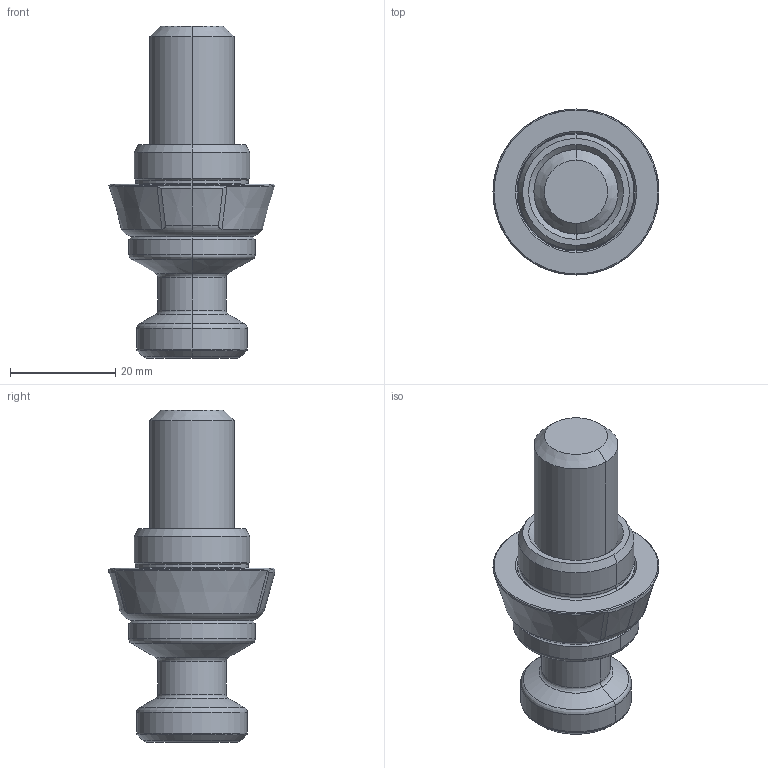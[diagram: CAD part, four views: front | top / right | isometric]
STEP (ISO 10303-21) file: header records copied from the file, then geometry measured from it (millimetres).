
FILE_DESCRIPTION (( 'STEP AP203' ), '1' );
FILE_NAME ('cp155-16001d.STEP', '2021-10-25T23:36:05', ( '' ), ( '' ), 'SwSTEP 2.0', 'SolidWorks 2020', '' );
FILE_SCHEMA (( 'CONFIG_CONTROL_DESIGN' ));
Length unit declared in the file: millimetre
Products named in the file (1): cp155-16001d
Bounding box: 31.5 x 31.5 x 63 mm (x, y, z)
Volume: 19837.6 mm3; surface area: 5511.3 mm2
Topology: 1 solids, 1 shells, 74 faces, 161 edges, 94 vertices
Faces by surface type: cone 27, cylinder 18, torus 16, plane 13
Entity records: 2166 total; most frequent: CARTESIAN_POINT 446, DIRECTION 379, ORIENTED_EDGE 322, AXIS2_PLACEMENT_3D 163, EDGE_CURVE 161, VERTEX_POINT 94, CIRCLE 88, EDGE_LOOP 79
